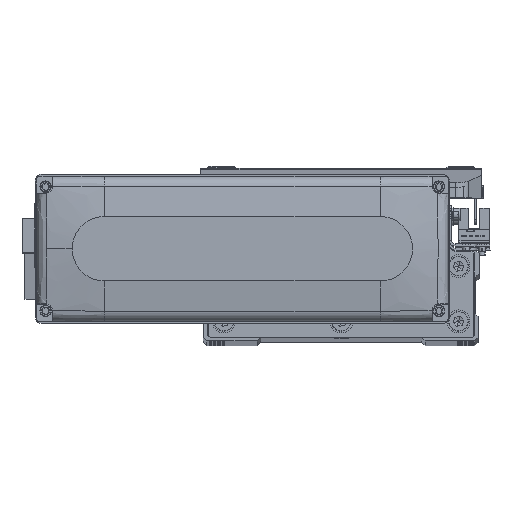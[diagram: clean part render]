
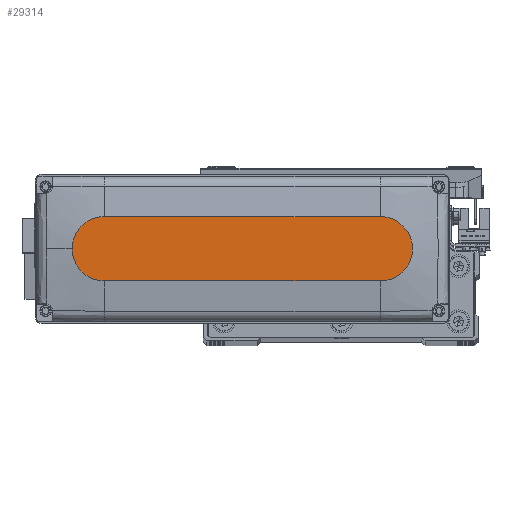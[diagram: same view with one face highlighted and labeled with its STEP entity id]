
A CAD part, top view. The second image highlights one B-rep face of the part: STEP entity #29314.
In plain terms, the highlighted planar face has unit normal (0, 0, 1).
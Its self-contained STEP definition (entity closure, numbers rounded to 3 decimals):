
#1054 = VERTEX_POINT ( 'NONE', #36036 ) ;
#2552 = PLANE ( 'NONE',  #27552 ) ;
#2924 = ORIENTED_EDGE ( 'NONE', *, *, #41694, .T. ) ;
#4915 = CARTESIAN_POINT ( 'NONE',  ( 60., 0., 28.5 ) ) ;
#6250 = VECTOR ( 'NONE', #34649, 1000. ) ;
#7394 = EDGE_CURVE ( 'NONE', #38877, #17700, #15637, .T. ) ;
#8102 = DIRECTION ( 'NONE',  ( 0., 0., 1. ) ) ;
#8242 = VECTOR ( 'NONE', #33179, 1000. ) ;
#8529 = VERTEX_POINT ( 'NONE', #17210 ) ;
#10411 = ORIENTED_EDGE ( 'NONE', *, *, #7394, .T. ) ;
#10469 = DIRECTION ( 'NONE',  ( 0., 0., 1. ) ) ;
#12854 = ORIENTED_EDGE ( 'NONE', *, *, #21544, .T. ) ;
#13360 = EDGE_CURVE ( 'NONE', #1054, #8529, #35651, .T. ) ;
#14364 = AXIS2_PLACEMENT_3D ( 'NONE', #25520, #10469, #25290 ) ;
#14506 = DIRECTION ( 'NONE',  ( 1., 0., 0. ) ) ;
#15637 = LINE ( 'NONE', #22204, #8242 ) ;
#16982 = AXIS2_PLACEMENT_3D ( 'NONE', #4915, #8102, #46035 ) ;
#17210 = CARTESIAN_POINT ( 'NONE',  ( 60., 14., 28.5 ) ) ;
#17700 = VERTEX_POINT ( 'NONE', #21906 ) ;
#19174 = CARTESIAN_POINT ( 'NONE',  ( -60., -14., 28.5 ) ) ;
#21296 = CARTESIAN_POINT ( 'NONE',  ( 0., 0., 28.5 ) ) ;
#21544 = EDGE_CURVE ( 'NONE', #27739, #38877, #36134, .T. ) ;
#21906 = CARTESIAN_POINT ( 'NONE',  ( 60., -14., 28.5 ) ) ;
#22204 = CARTESIAN_POINT ( 'NONE',  ( -60., -14., 28.5 ) ) ;
#23547 = EDGE_CURVE ( 'NONE', #17700, #1054, #46244, .T. ) ;
#25290 = DIRECTION ( 'NONE',  ( 1., 0., 0. ) ) ;
#25424 = DIRECTION ( 'NONE',  ( 0., 0., 1. ) ) ;
#25520 = CARTESIAN_POINT ( 'NONE',  ( -60., 0., 28.5 ) ) ;
#27552 = AXIS2_PLACEMENT_3D ( 'NONE', #21296, #25424, #14506 ) ;
#27739 = VERTEX_POINT ( 'NONE', #46421 ) ;
#29314 = ADVANCED_FACE ( 'NONE', ( #43946 ), #2552, .T. ) ;
#30742 = AXIS2_PLACEMENT_3D ( 'NONE', #42485, #42954, #39063 ) ;
#33179 = DIRECTION ( 'NONE',  ( 1., 0., 0. ) ) ;
#34649 = DIRECTION ( 'NONE',  ( -1., 0., 0. ) ) ;
#35126 = LINE ( 'NONE', #42190, #6250 ) ;
#35651 = CIRCLE ( 'NONE', #16982, 14. ) ;
#36036 = CARTESIAN_POINT ( 'NONE',  ( 74., 0., 28.5 ) ) ;
#36134 = CIRCLE ( 'NONE', #14364, 14. ) ;
#37507 = ORIENTED_EDGE ( 'NONE', *, *, #23547, .T. ) ;
#38877 = VERTEX_POINT ( 'NONE', #19174 ) ;
#39063 = DIRECTION ( 'NONE',  ( 1., 0., 0. ) ) ;
#40613 = ORIENTED_EDGE ( 'NONE', *, *, #13360, .T. ) ;
#41694 = EDGE_CURVE ( 'NONE', #8529, #27739, #35126, .T. ) ;
#41923 = EDGE_LOOP ( 'NONE', ( #2924, #12854, #10411, #37507, #40613 ) ) ;
#42190 = CARTESIAN_POINT ( 'NONE',  ( -60., 14., 28.5 ) ) ;
#42485 = CARTESIAN_POINT ( 'NONE',  ( 60., 0., 28.5 ) ) ;
#42954 = DIRECTION ( 'NONE',  ( 0., 0., 1. ) ) ;
#43946 = FACE_OUTER_BOUND ( 'NONE', #41923, .T. ) ;
#46035 = DIRECTION ( 'NONE',  ( 1., 0., 0. ) ) ;
#46244 = CIRCLE ( 'NONE', #30742, 14. ) ;
#46421 = CARTESIAN_POINT ( 'NONE',  ( -60., 14., 28.5 ) ) ;
